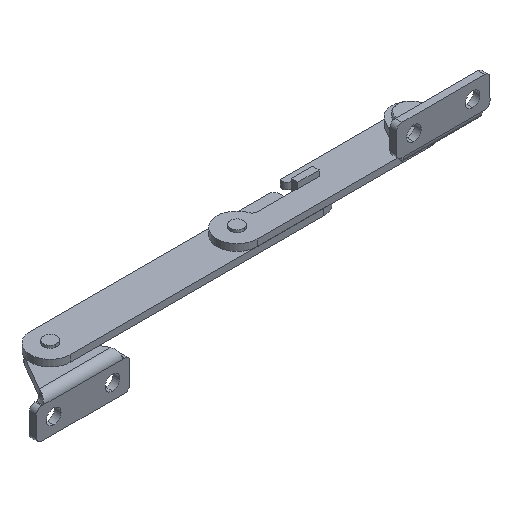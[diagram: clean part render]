
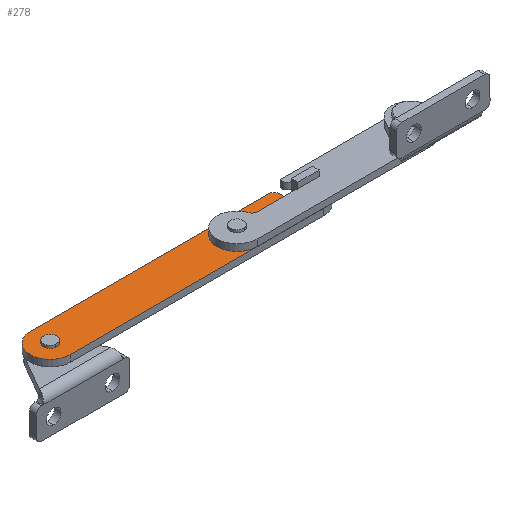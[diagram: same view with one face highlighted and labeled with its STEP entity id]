
A CAD part, isometric view. The second image highlights one B-rep face of the part: STEP entity #278.
In plain terms, the highlighted planar face has unit normal (0, 0, 1).
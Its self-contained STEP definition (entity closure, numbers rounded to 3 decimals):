
#12 = ORIENTED_EDGE ( 'NONE', *, *, #1794, .T. ) ;
#28 = ORIENTED_EDGE ( 'NONE', *, *, #2634, .T. ) ;
#100 = AXIS2_PLACEMENT_3D ( 'NONE', #1486, #895, #340 ) ;
#170 = ORIENTED_EDGE ( 'NONE', *, *, #2778, .F. ) ;
#172 = DIRECTION ( 'NONE',  ( 1., 0., 0. ) ) ;
#187 = EDGE_CURVE ( 'NONE', #1906, #1559, #1029, .T. ) ;
#196 = VERTEX_POINT ( 'NONE', #713 ) ;
#205 = AXIS2_PLACEMENT_3D ( 'NONE', #2954, #1289, #3236 ) ;
#227 = VERTEX_POINT ( 'NONE', #3239 ) ;
#270 = CIRCLE ( 'NONE', #1581, 2.5 ) ;
#278 = ADVANCED_FACE ( 'NONE', ( #2903, #2152, #1432 ), #1302, .F. ) ;
#286 = CARTESIAN_POINT ( 'NONE',  ( 1.002, -91.3, 2.5 ) ) ;
#340 = DIRECTION ( 'NONE',  ( -1., 0., 0. ) ) ;
#417 = EDGE_CURVE ( 'NONE', #3567, #196, #3397, .T. ) ;
#480 = DIRECTION ( 'NONE',  ( 0., 1., 0. ) ) ;
#481 = CIRCLE ( 'NONE', #1533, 2.5 ) ;
#496 = CIRCLE ( 'NONE', #1573, 2. ) ;
#497 = CARTESIAN_POINT ( 'NONE',  ( 0., 0., 2.5 ) ) ;
#553 = CARTESIAN_POINT ( 'NONE',  ( -0.588, -92.9, 2.5 ) ) ;
#589 = VERTEX_POINT ( 'NONE', #1430 ) ;
#641 = CARTESIAN_POINT ( 'NONE',  ( -7.5, 0., 2.5 ) ) ;
#692 = CIRCLE ( 'NONE', #100, 7.5 ) ;
#701 = VECTOR ( 'NONE', #480, 1000. ) ;
#713 = CARTESIAN_POINT ( 'NONE',  ( 1.002, -94.5, 2.5 ) ) ;
#738 = EDGE_CURVE ( 'NONE', #3103, #2522, #1458, .T. ) ;
#763 = DIRECTION ( 'NONE',  ( 1., 0., 0. ) ) ;
#804 = CARTESIAN_POINT ( 'NONE',  ( 1.202, -94.5, 2.5 ) ) ;
#827 = EDGE_CURVE ( 'NONE', #3048, #3490, #1951, .T. ) ;
#833 = CARTESIAN_POINT ( 'NONE',  ( 0., -68.5, 2.5 ) ) ;
#840 = ORIENTED_EDGE ( 'NONE', *, *, #1527, .F. ) ;
#850 = CARTESIAN_POINT ( 'NONE',  ( 7.5, -89.3, 2.5 ) ) ;
#895 = DIRECTION ( 'NONE',  ( 0., 0., 1. ) ) ;
#1004 = CARTESIAN_POINT ( 'NONE',  ( 7.502, -102.5, 2.5 ) ) ;
#1029 = CIRCLE ( 'NONE', #2010, 1.6 ) ;
#1047 = CARTESIAN_POINT ( 'NONE',  ( 0., -95., 2.5 ) ) ;
#1057 = LINE ( 'NONE', #286, #2449 ) ;
#1080 = CARTESIAN_POINT ( 'NONE',  ( 0., -84., 2.5 ) ) ;
#1116 = DIRECTION ( 'NONE',  ( 1., 0., 0. ) ) ;
#1167 = AXIS2_PLACEMENT_3D ( 'NONE', #833, #2782, #1116 ) ;
#1199 = ORIENTED_EDGE ( 'NONE', *, *, #417, .T. ) ;
#1223 = EDGE_CURVE ( 'NONE', #1857, #1422, #496, .T. ) ;
#1228 = DIRECTION ( 'NONE',  ( 0., 0., 1. ) ) ;
#1285 = CARTESIAN_POINT ( 'NONE',  ( -3.1, -84., 2.5 ) ) ;
#1289 = DIRECTION ( 'NONE',  ( 0., 0., -1. ) ) ;
#1291 = CARTESIAN_POINT ( 'NONE',  ( -7.5, -95., 2.5 ) ) ;
#1302 = PLANE ( 'NONE',  #3322 ) ;
#1304 = CIRCLE ( 'NONE', #1167, 3.1 ) ;
#1317 = VECTOR ( 'NONE', #1338, 1000. ) ;
#1321 = ORIENTED_EDGE ( 'NONE', *, *, #3362, .T. ) ;
#1323 = AXIS2_PLACEMENT_3D ( 'NONE', #1080, #3023, #1360 ) ;
#1338 = DIRECTION ( 'NONE',  ( 0., 1., 0. ) ) ;
#1351 = EDGE_CURVE ( 'NONE', #196, #1906, #2270, .T. ) ;
#1360 = DIRECTION ( 'NONE',  ( 1., 0., 0. ) ) ;
#1374 = CARTESIAN_POINT ( 'NONE',  ( 1.002, -91.3, 2.5 ) ) ;
#1383 = EDGE_CURVE ( 'NONE', #2651, #1973, #1534, .T. ) ;
#1409 = CARTESIAN_POINT ( 'NONE',  ( 3.1, -68.5, 2.5 ) ) ;
#1414 = DIRECTION ( 'NONE',  ( 0., 0., 1. ) ) ;
#1422 = VERTEX_POINT ( 'NONE', #1594 ) ;
#1427 = ORIENTED_EDGE ( 'NONE', *, *, #1383, .F. ) ;
#1430 = CARTESIAN_POINT ( 'NONE',  ( 7.5, 0., 2.5 ) ) ;
#1432 = FACE_OUTER_BOUND ( 'NONE', #1849, .T. ) ;
#1458 = LINE ( 'NONE', #641, #2944 ) ;
#1486 = CARTESIAN_POINT ( 'NONE',  ( 0., -95., 2.5 ) ) ;
#1495 = VERTEX_POINT ( 'NONE', #3557 ) ;
#1527 = EDGE_CURVE ( 'NONE', #3490, #2651, #3337, .T. ) ;
#1533 = AXIS2_PLACEMENT_3D ( 'NONE', #3074, #1414, #3361 ) ;
#1534 = LINE ( 'NONE', #1873, #701 ) ;
#1538 = VERTEX_POINT ( 'NONE', #2728 ) ;
#1559 = VERTEX_POINT ( 'NONE', #1374 ) ;
#1573 = AXIS2_PLACEMENT_3D ( 'NONE', #2898, #1228, #3177 ) ;
#1581 = AXIS2_PLACEMENT_3D ( 'NONE', #3255, #1588, #3533 ) ;
#1588 = DIRECTION ( 'NONE',  ( 0., 0., 1. ) ) ;
#1590 = ORIENTED_EDGE ( 'NONE', *, *, #1351, .T. ) ;
#1594 = CARTESIAN_POINT ( 'NONE',  ( 7.5, -89.3, 2.5 ) ) ;
#1689 = CARTESIAN_POINT ( 'NONE',  ( -7.5, 0., 2.5 ) ) ;
#1788 = CIRCLE ( 'NONE', #2544, 7.5 ) ;
#1794 = EDGE_CURVE ( 'NONE', #1495, #3567, #2801, .T. ) ;
#1849 = EDGE_LOOP ( 'NONE', ( #1321, #12, #1199, #1590, #2777, #3238, #1868, #2066, #28, #2219, #2957 ) ) ;
#1851 = DIRECTION ( 'NONE',  ( 0., 0., -1. ) ) ;
#1855 = DIRECTION ( 'NONE',  ( 1., 0., 0. ) ) ;
#1857 = VERTEX_POINT ( 'NONE', #3323 ) ;
#1868 = ORIENTED_EDGE ( 'NONE', *, *, #1223, .T. ) ;
#1873 = CARTESIAN_POINT ( 'NONE',  ( 3.1, -84., 2.5 ) ) ;
#1892 = CARTESIAN_POINT ( 'NONE',  ( -3.1, -84., 2.5 ) ) ;
#1901 = DIRECTION ( 'NONE',  ( -1., 0., 0. ) ) ;
#1906 = VERTEX_POINT ( 'NONE', #553 ) ;
#1910 = CARTESIAN_POINT ( 'NONE',  ( 1.202, -95., 2.5 ) ) ;
#1918 = EDGE_CURVE ( 'NONE', #1559, #1857, #1057, .T. ) ;
#1921 = VECTOR ( 'NONE', #3114, 1000. ) ;
#1951 = LINE ( 'NONE', #1285, #2675 ) ;
#1973 = VERTEX_POINT ( 'NONE', #1409 ) ;
#2010 = AXIS2_PLACEMENT_3D ( 'NONE', #3506, #1851, #172 ) ;
#2015 = LINE ( 'NONE', #1004, #2579 ) ;
#2048 = DIRECTION ( 'NONE',  ( 0., -1., 0. ) ) ;
#2066 = ORIENTED_EDGE ( 'NONE', *, *, #3158, .T. ) ;
#2094 = EDGE_LOOP ( 'NONE', ( #3104, #2510 ) ) ;
#2152 = FACE_BOUND ( 'NONE', #2094, .T. ) ;
#2219 = ORIENTED_EDGE ( 'NONE', *, *, #738, .T. ) ;
#2270 = CIRCLE ( 'NONE', #205, 1.6 ) ;
#2273 = CARTESIAN_POINT ( 'NONE',  ( 1.002, -94.5, 2.5 ) ) ;
#2432 = DIRECTION ( 'NONE',  ( 0., 0., 1. ) ) ;
#2449 = VECTOR ( 'NONE', #2763, 1000. ) ;
#2510 = ORIENTED_EDGE ( 'NONE', *, *, #2819, .F. ) ;
#2522 = VERTEX_POINT ( 'NONE', #1291 ) ;
#2532 = VECTOR ( 'NONE', #2800, 1000. ) ;
#2544 = AXIS2_PLACEMENT_3D ( 'NONE', #497, #2432, #763 ) ;
#2579 = VECTOR ( 'NONE', #1855, 1000. ) ;
#2634 = EDGE_CURVE ( 'NONE', #589, #3103, #1788, .T. ) ;
#2651 = VERTEX_POINT ( 'NONE', #2703 ) ;
#2675 = VECTOR ( 'NONE', #2948, 1000. ) ;
#2703 = CARTESIAN_POINT ( 'NONE',  ( 3.1, -84., 2.5 ) ) ;
#2728 = CARTESIAN_POINT ( 'NONE',  ( 2.5, 0., 2.5 ) ) ;
#2763 = DIRECTION ( 'NONE',  ( 1., 0., 0. ) ) ;
#2776 = CARTESIAN_POINT ( 'NONE',  ( -3.1, -68.5, 2.5 ) ) ;
#2777 = ORIENTED_EDGE ( 'NONE', *, *, #187, .T. ) ;
#2778 = EDGE_CURVE ( 'NONE', #1973, #3048, #1304, .T. ) ;
#2782 = DIRECTION ( 'NONE',  ( 0., 0., 1. ) ) ;
#2800 = DIRECTION ( 'NONE',  ( 0., 1., 0. ) ) ;
#2801 = LINE ( 'NONE', #1910, #1317 ) ;
#2819 = EDGE_CURVE ( 'NONE', #3120, #1538, #481, .T. ) ;
#2860 = ORIENTED_EDGE ( 'NONE', *, *, #827, .F. ) ;
#2898 = CARTESIAN_POINT ( 'NONE',  ( 5.5, -89.3, 2.5 ) ) ;
#2903 = FACE_BOUND ( 'NONE', #3458, .T. ) ;
#2944 = VECTOR ( 'NONE', #2048, 1000. ) ;
#2948 = DIRECTION ( 'NONE',  ( 0., -1., 0. ) ) ;
#2954 = CARTESIAN_POINT ( 'NONE',  ( 1.012, -92.9, 2.5 ) ) ;
#2957 = ORIENTED_EDGE ( 'NONE', *, *, #3291, .T. ) ;
#3023 = DIRECTION ( 'NONE',  ( 0., 0., 1. ) ) ;
#3048 = VERTEX_POINT ( 'NONE', #2776 ) ;
#3074 = CARTESIAN_POINT ( 'NONE',  ( 0., 0., 2.5 ) ) ;
#3103 = VERTEX_POINT ( 'NONE', #1689 ) ;
#3104 = ORIENTED_EDGE ( 'NONE', *, *, #3448, .F. ) ;
#3114 = DIRECTION ( 'NONE',  ( -1., 0., 0. ) ) ;
#3120 = VERTEX_POINT ( 'NONE', #3360 ) ;
#3158 = EDGE_CURVE ( 'NONE', #1422, #589, #3183, .T. ) ;
#3177 = DIRECTION ( 'NONE',  ( -1., 0., 0. ) ) ;
#3183 = LINE ( 'NONE', #850, #2532 ) ;
#3236 = DIRECTION ( 'NONE',  ( 1., 0., 0. ) ) ;
#3238 = ORIENTED_EDGE ( 'NONE', *, *, #1918, .T. ) ;
#3239 = CARTESIAN_POINT ( 'NONE',  ( 0., -102.5, 2.5 ) ) ;
#3255 = CARTESIAN_POINT ( 'NONE',  ( 0., 0., 2.5 ) ) ;
#3291 = EDGE_CURVE ( 'NONE', #2522, #227, #692, .T. ) ;
#3322 = AXIS2_PLACEMENT_3D ( 'NONE', #1047, #3556, #1901 ) ;
#3323 = CARTESIAN_POINT ( 'NONE',  ( 5.5, -91.3, 2.5 ) ) ;
#3337 = CIRCLE ( 'NONE', #1323, 3.1 ) ;
#3360 = CARTESIAN_POINT ( 'NONE',  ( -2.5, 0., 2.5 ) ) ;
#3361 = DIRECTION ( 'NONE',  ( 1., 0., 0. ) ) ;
#3362 = EDGE_CURVE ( 'NONE', #227, #1495, #2015, .T. ) ;
#3397 = LINE ( 'NONE', #2273, #1921 ) ;
#3448 = EDGE_CURVE ( 'NONE', #1538, #3120, #270, .T. ) ;
#3458 = EDGE_LOOP ( 'NONE', ( #1427, #840, #2860, #170 ) ) ;
#3490 = VERTEX_POINT ( 'NONE', #1892 ) ;
#3506 = CARTESIAN_POINT ( 'NONE',  ( 1.012, -92.9, 2.5 ) ) ;
#3533 = DIRECTION ( 'NONE',  ( 1., 0., 0. ) ) ;
#3556 = DIRECTION ( 'NONE',  ( 0., 0., -1. ) ) ;
#3557 = CARTESIAN_POINT ( 'NONE',  ( 1.202, -102.5, 2.5 ) ) ;
#3567 = VERTEX_POINT ( 'NONE', #804 ) ;
